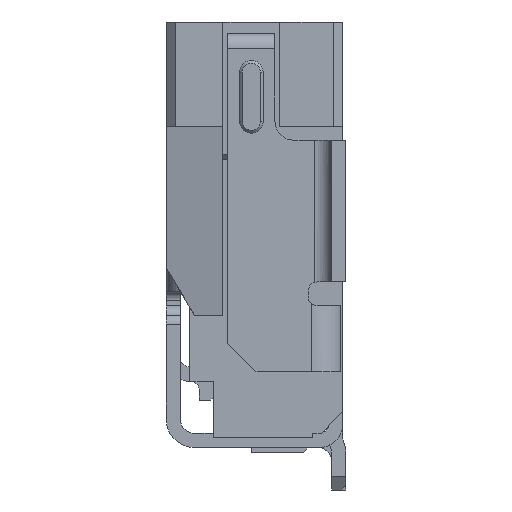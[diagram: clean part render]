
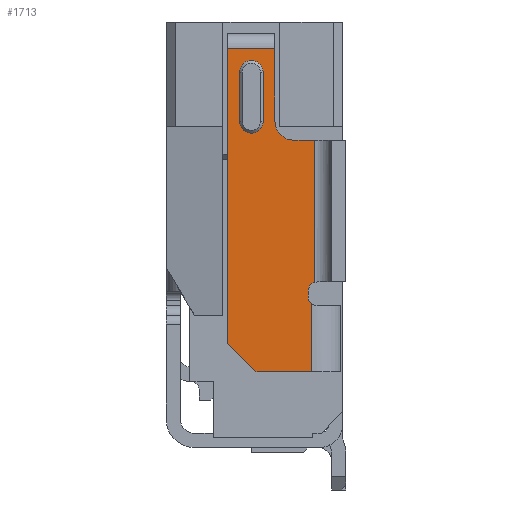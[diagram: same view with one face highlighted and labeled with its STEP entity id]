
A CAD part, left-side view. The second image highlights one B-rep face of the part: STEP entity #1713.
In plain terms, the highlighted planar face has unit normal (-1, 0, 0).
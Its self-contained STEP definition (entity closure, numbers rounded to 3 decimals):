
#277 = VERTEX_POINT ( 'NONE', #11391 ) ;
#372 = EDGE_LOOP ( 'NONE', ( #44130, #20056, #5932, #10794 ) ) ;
#870 = CARTESIAN_POINT ( 'NONE',  ( -9.735, 0.3, 0.075 ) ) ;
#1127 = DIRECTION ( 'NONE',  ( 0., -1., 0. ) ) ;
#1713 = ADVANCED_FACE ( 'NONE', ( #29604, #41247 ), #6535, .T. ) ;
#2343 = CARTESIAN_POINT ( 'NONE',  ( -9.735, 0.33, 0.22 ) ) ;
#2405 = AXIS2_PLACEMENT_3D ( 'NONE', #29118, #33156, #36719 ) ;
#2727 = DIRECTION ( 'NONE',  ( -1., 0., 0. ) ) ;
#3149 = CARTESIAN_POINT ( 'NONE',  ( -9.735, 0.75, -0.025 ) ) ;
#3230 = EDGE_CURVE ( 'NONE', #27549, #38747, #25973, .T. ) ;
#3708 = DIRECTION ( 'NONE',  ( -1., 0., 0. ) ) ;
#3889 = VERTEX_POINT ( 'NONE', #25877 ) ;
#4156 = CARTESIAN_POINT ( 'NONE',  ( -9.735, 0.36, -0.725 ) ) ;
#5424 = EDGE_CURVE ( 'NONE', #5782, #3889, #24336, .T. ) ;
#5782 = VERTEX_POINT ( 'NONE', #13147 ) ;
#5932 = ORIENTED_EDGE ( 'NONE', *, *, #48846, .F. ) ;
#6430 = VERTEX_POINT ( 'NONE', #34062 ) ;
#6535 = PLANE ( 'NONE',  #40276 ) ;
#6628 = AXIS2_PLACEMENT_3D ( 'NONE', #870, #27996, #1127 ) ;
#6944 = EDGE_CURVE ( 'NONE', #32477, #38686, #14767, .T. ) ;
#7212 = DIRECTION ( 'NONE',  ( 0., 0., -1. ) ) ;
#8107 = CIRCLE ( 'NONE', #2405, 0.1 ) ;
#8193 = VERTEX_POINT ( 'NONE', #48660 ) ;
#8269 = EDGE_CURVE ( 'NONE', #34201, #46838, #21788, .T. ) ;
#9310 = CARTESIAN_POINT ( 'NONE',  ( -9.735, 1.25, -0.425 ) ) ;
#9985 = EDGE_CURVE ( 'NONE', #32136, #32477, #40696, .T. ) ;
#10058 = VECTOR ( 'NONE', #26666, 1000. ) ;
#10693 = CIRCLE ( 'NONE', #6628, 0.1 ) ;
#10794 = ORIENTED_EDGE ( 'NONE', *, *, #24991, .F. ) ;
#11223 = CARTESIAN_POINT ( 'NONE',  ( -9.735, 0.34, 2.695 ) ) ;
#11391 = CARTESIAN_POINT ( 'NONE',  ( -9.735, 1.125, 2.445 ) ) ;
#11510 = VECTOR ( 'NONE', #27767, 1000. ) ;
#11930 = VECTOR ( 'NONE', #28139, 1000. ) ;
#12160 = EDGE_CURVE ( 'NONE', #3889, #16433, #8107, .T. ) ;
#12660 = VERTEX_POINT ( 'NONE', #37079 ) ;
#12734 = VECTOR ( 'NONE', #26235, 1000. ) ;
#12812 = CARTESIAN_POINT ( 'NONE',  ( -9.735, 0.36, -0.025 ) ) ;
#13147 = CARTESIAN_POINT ( 'NONE',  ( -9.735, 0.4, 0.075 ) ) ;
#14020 = EDGE_CURVE ( 'NONE', #34201, #5782, #10693, .T. ) ;
#14094 = CARTESIAN_POINT ( 'NONE',  ( -9.735, 0.95, -0.725 ) ) ;
#14767 = LINE ( 'NONE', #15765, #24338 ) ;
#14934 = DIRECTION ( 'NONE',  ( 0., 1., 0. ) ) ;
#15460 = LINE ( 'NONE', #22819, #43951 ) ;
#15765 = CARTESIAN_POINT ( 'NONE',  ( -9.735, 0.875, 2.445 ) ) ;
#16374 = VECTOR ( 'NONE', #7212, 1000. ) ;
#16433 = VERTEX_POINT ( 'NONE', #2343 ) ;
#16972 = EDGE_CURVE ( 'NONE', #27549, #47566, #19698, .T. ) ;
#18014 = AXIS2_PLACEMENT_3D ( 'NONE', #49851, #3708, #34131 ) ;
#18898 = LINE ( 'NONE', #33843, #26285 ) ;
#19574 = ORIENTED_EDGE ( 'NONE', *, *, #19838, .F. ) ;
#19698 = LINE ( 'NONE', #23233, #39137 ) ;
#19838 = EDGE_CURVE ( 'NONE', #46838, #38747, #18898, .T. ) ;
#19902 = ORIENTED_EDGE ( 'NONE', *, *, #3230, .T. ) ;
#20056 = ORIENTED_EDGE ( 'NONE', *, *, #9985, .F. ) ;
#20752 = DIRECTION ( 'NONE',  ( 0., 0., 1. ) ) ;
#21292 = ORIENTED_EDGE ( 'NONE', *, *, #12160, .T. ) ;
#21497 = CARTESIAN_POINT ( 'NONE',  ( -9.735, 0.875, 2.445 ) ) ;
#21788 = LINE ( 'NONE', #12812, #11510 ) ;
#21999 = CARTESIAN_POINT ( 'NONE',  ( -9.735, 0., -0.025 ) ) ;
#22609 = VECTOR ( 'NONE', #44120, 1000. ) ;
#22819 = CARTESIAN_POINT ( 'NONE',  ( -9.735, 1.125, 1.925 ) ) ;
#23233 = CARTESIAN_POINT ( 'NONE',  ( -9.735, 1.25, -0.425 ) ) ;
#23370 = CIRCLE ( 'NONE', #43606, 0.125 ) ;
#24222 = CARTESIAN_POINT ( 'NONE',  ( -9.735, 0.36, -0.005 ) ) ;
#24336 = LINE ( 'NONE', #28669, #22609 ) ;
#24338 = VECTOR ( 'NONE', #20752, 1000. ) ;
#24687 = EDGE_LOOP ( 'NONE', ( #35003, #49677, #25756, #28427, #48529, #19902, #19574, #46799, #45331, #30863, #21292, #39898 ) ) ;
#24991 = EDGE_CURVE ( 'NONE', #38686, #277, #23370, .T. ) ;
#25756 = ORIENTED_EDGE ( 'NONE', *, *, #40442, .F. ) ;
#25877 = CARTESIAN_POINT ( 'NONE',  ( -9.735, 0.4, 0.125 ) ) ;
#25973 = LINE ( 'NONE', #14094, #12734 ) ;
#25974 = DIRECTION ( 'NONE',  ( -1., 0., 0. ) ) ;
#26235 = DIRECTION ( 'NONE',  ( 0., -0.707, -0.707 ) ) ;
#26285 = VECTOR ( 'NONE', #41949, 1000. ) ;
#26666 = DIRECTION ( 'NONE',  ( 0., 1., 0. ) ) ;
#27549 = VERTEX_POINT ( 'NONE', #9310 ) ;
#27724 = CARTESIAN_POINT ( 'NONE',  ( -9.735, 0., 1.725 ) ) ;
#27739 = EDGE_CURVE ( 'NONE', #33499, #6430, #33973, .T. ) ;
#27767 = DIRECTION ( 'NONE',  ( 0., 0., -1. ) ) ;
#27996 = DIRECTION ( 'NONE',  ( 1., 0., 0. ) ) ;
#28139 = DIRECTION ( 'NONE',  ( 0., 0., -1. ) ) ;
#28399 = LINE ( 'NONE', #32446, #11930 ) ;
#28427 = ORIENTED_EDGE ( 'NONE', *, *, #41967, .T. ) ;
#28669 = CARTESIAN_POINT ( 'NONE',  ( -9.735, 0.4, 0. ) ) ;
#28914 = CARTESIAN_POINT ( 'NONE',  ( -9.735, 1.125, 1.925 ) ) ;
#29118 = CARTESIAN_POINT ( 'NONE',  ( -9.735, 0.3, 0.125 ) ) ;
#29604 = FACE_OUTER_BOUND ( 'NONE', #24687, .T. ) ;
#29824 = CARTESIAN_POINT ( 'NONE',  ( -9.735, 0.95, -0.725 ) ) ;
#30863 = ORIENTED_EDGE ( 'NONE', *, *, #5424, .T. ) ;
#31516 = LINE ( 'NONE', #27724, #31649 ) ;
#31649 = VECTOR ( 'NONE', #32024, 1000. ) ;
#32024 = DIRECTION ( 'NONE',  ( 0., -1., 0. ) ) ;
#32136 = VERTEX_POINT ( 'NONE', #28914 ) ;
#32446 = CARTESIAN_POINT ( 'NONE',  ( -9.735, 0.33, 1.725 ) ) ;
#32477 = VERTEX_POINT ( 'NONE', #38249 ) ;
#32854 = CARTESIAN_POINT ( 'NONE',  ( -9.735, 0.55, 1.925 ) ) ;
#33156 = DIRECTION ( 'NONE',  ( 1., 0., 0. ) ) ;
#33499 = VERTEX_POINT ( 'NONE', #48484 ) ;
#33647 = DIRECTION ( 'NONE',  ( 0., -1., 0. ) ) ;
#33681 = DIRECTION ( 'NONE',  ( -1., 0., 0. ) ) ;
#33843 = CARTESIAN_POINT ( 'NONE',  ( -9.735, 0., -0.725 ) ) ;
#33973 = CIRCLE ( 'NONE', #48562, 0.2 ) ;
#34062 = CARTESIAN_POINT ( 'NONE',  ( -9.735, 0.55, 1.725 ) ) ;
#34131 = DIRECTION ( 'NONE',  ( 0., 1., 0. ) ) ;
#34201 = VERTEX_POINT ( 'NONE', #24222 ) ;
#34704 = DIRECTION ( 'NONE',  ( 0., 0., -1. ) ) ;
#35003 = ORIENTED_EDGE ( 'NONE', *, *, #47005, .F. ) ;
#35149 = DIRECTION ( 'NONE',  ( 0., 0., 1. ) ) ;
#35987 = CARTESIAN_POINT ( 'NONE',  ( -9.735, 1., 2.445 ) ) ;
#36719 = DIRECTION ( 'NONE',  ( 0., -1., 0. ) ) ;
#37079 = CARTESIAN_POINT ( 'NONE',  ( -9.735, 0.75, 2.695 ) ) ;
#37870 = LINE ( 'NONE', #3149, #16374 ) ;
#38249 = CARTESIAN_POINT ( 'NONE',  ( -9.735, 0.875, 1.925 ) ) ;
#38686 = VERTEX_POINT ( 'NONE', #21497 ) ;
#38747 = VERTEX_POINT ( 'NONE', #29824 ) ;
#39137 = VECTOR ( 'NONE', #35149, 1000. ) ;
#39898 = ORIENTED_EDGE ( 'NONE', *, *, #45154, .F. ) ;
#40276 = AXIS2_PLACEMENT_3D ( 'NONE', #21999, #2727, #33647 ) ;
#40442 = EDGE_CURVE ( 'NONE', #12660, #33499, #37870, .T. ) ;
#40696 = CIRCLE ( 'NONE', #18014, 0.125 ) ;
#41247 = FACE_BOUND ( 'NONE', #372, .T. ) ;
#41446 = DIRECTION ( 'NONE',  ( 0., -1., 0. ) ) ;
#41949 = DIRECTION ( 'NONE',  ( 0., 1., 0. ) ) ;
#41967 = EDGE_CURVE ( 'NONE', #12660, #47566, #45696, .T. ) ;
#43606 = AXIS2_PLACEMENT_3D ( 'NONE', #35987, #33681, #14934 ) ;
#43951 = VECTOR ( 'NONE', #34704, 1000. ) ;
#44120 = DIRECTION ( 'NONE',  ( 0., 0., 1. ) ) ;
#44130 = ORIENTED_EDGE ( 'NONE', *, *, #6944, .F. ) ;
#44883 = CARTESIAN_POINT ( 'NONE',  ( -9.735, 1.25, 2.695 ) ) ;
#45154 = EDGE_CURVE ( 'NONE', #8193, #16433, #28399, .T. ) ;
#45331 = ORIENTED_EDGE ( 'NONE', *, *, #14020, .T. ) ;
#45696 = LINE ( 'NONE', #11223, #10058 ) ;
#46799 = ORIENTED_EDGE ( 'NONE', *, *, #8269, .F. ) ;
#46838 = VERTEX_POINT ( 'NONE', #4156 ) ;
#47005 = EDGE_CURVE ( 'NONE', #6430, #8193, #31516, .T. ) ;
#47566 = VERTEX_POINT ( 'NONE', #44883 ) ;
#48484 = CARTESIAN_POINT ( 'NONE',  ( -9.735, 0.75, 1.925 ) ) ;
#48529 = ORIENTED_EDGE ( 'NONE', *, *, #16972, .F. ) ;
#48562 = AXIS2_PLACEMENT_3D ( 'NONE', #32854, #25974, #41446 ) ;
#48660 = CARTESIAN_POINT ( 'NONE',  ( -9.735, 0.33, 1.725 ) ) ;
#48846 = EDGE_CURVE ( 'NONE', #277, #32136, #15460, .T. ) ;
#49677 = ORIENTED_EDGE ( 'NONE', *, *, #27739, .F. ) ;
#49851 = CARTESIAN_POINT ( 'NONE',  ( -9.735, 1., 1.925 ) ) ;
